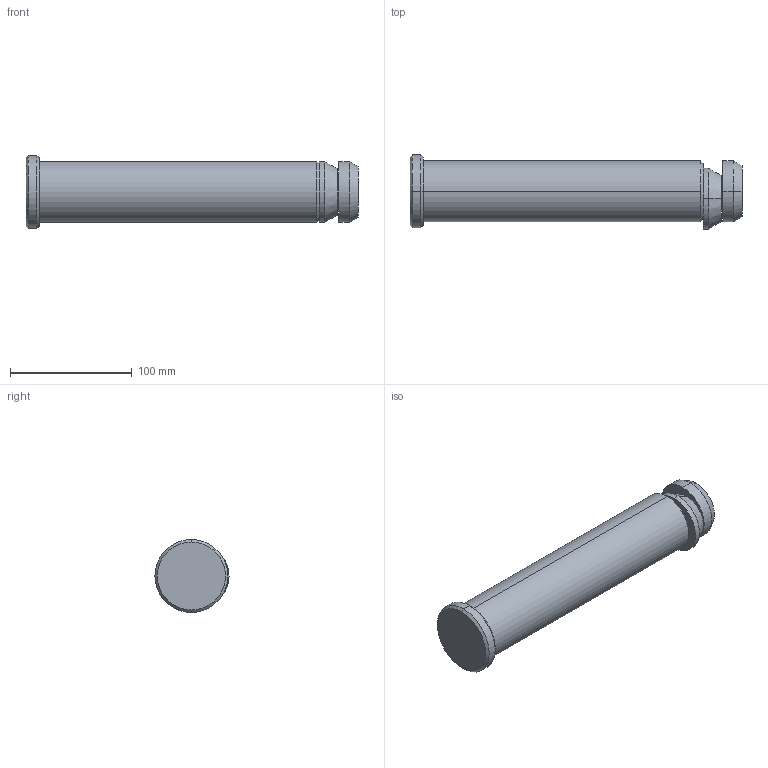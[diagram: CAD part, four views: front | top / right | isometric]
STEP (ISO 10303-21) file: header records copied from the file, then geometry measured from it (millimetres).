
FILE_DESCRIPTION(('CATIA V5 STEP Exchange'),'2;1');
FILE_NAME('C:\Users\Raffaele\Desktop\3D X SITO CF\PERNI -STAFFE SOLLEVAMENTO\395A\GSB_OILLESS_C10309050273\STEP-2.03\395A-050-273.stp','2019-07-02T14:45:39+00:00',('none'),('none'),'CATIA Version 5 Release 20 GA (IN-10)','CATIA V5 STEP AP203','none');
FILE_SCHEMA(('CONFIG_CONTROL_DESIGN'));
Length unit declared in the file: millimetre
Products named in the file (1): 395A-050-273
Bounding box: 273 x 61 x 60 mm (x, y, z)
Volume: 536191.4 mm3; surface area: 51248.8 mm2
Topology: 1 solids, 1 shells, 43 faces, 124 edges, 88 vertices
Faces by surface type: cylinder 20, plane 13, cone 10
Entity records: 1694 total; most frequent: CARTESIAN_POINT 538, ORIENTED_EDGE 248, DIRECTION 192, EDGE_CURVE 124, AXIS2_PLACEMENT_3D 112, VERTEX_POINT 88, CIRCLE 68, EDGE_LOOP 48
